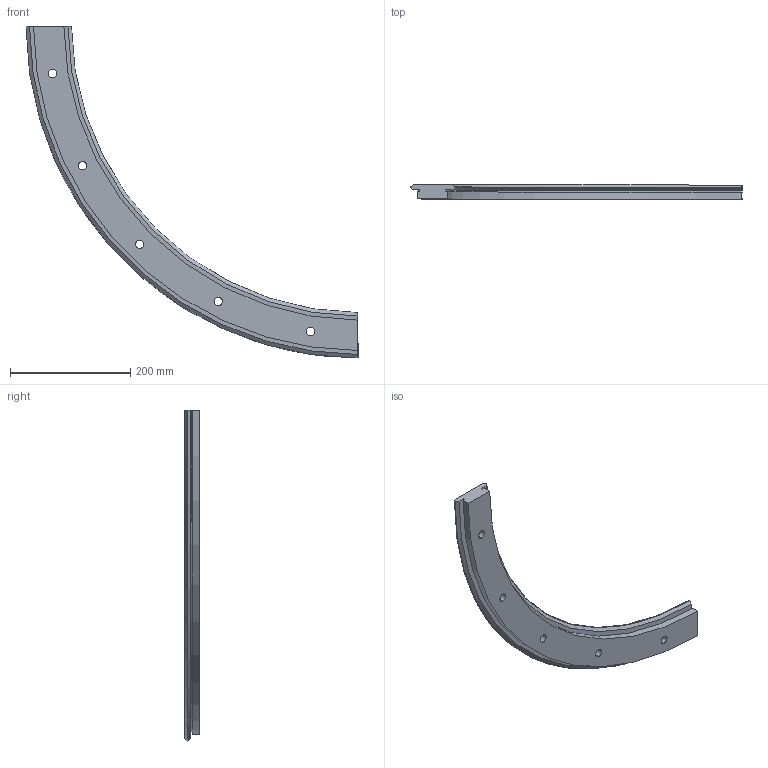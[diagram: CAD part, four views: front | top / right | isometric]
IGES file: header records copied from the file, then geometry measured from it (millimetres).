
Start section: 3D InterOp IGES (v. 2020 1.0.1), Spatial Corp. Copyright (c) 1999-2017.
Global section: file name: r76_1033_r90.igs; native system: Spatial Corp.; preprocessor: 3D InterOp ACIS/IGES; author: TraceParts; organization: TraceParts S.A.; date: 20220624.073307; units: millimetre
Bounding box: 552.3 x 24 x 552.3 mm (x, y, z)
Surface area: 171528 mm2 (no closed solid volume)
Topology: 0 solids, 0 shells, 45 faces, 228 edges, 228 vertices
Faces by surface type: revolution 32, extrusion 13
